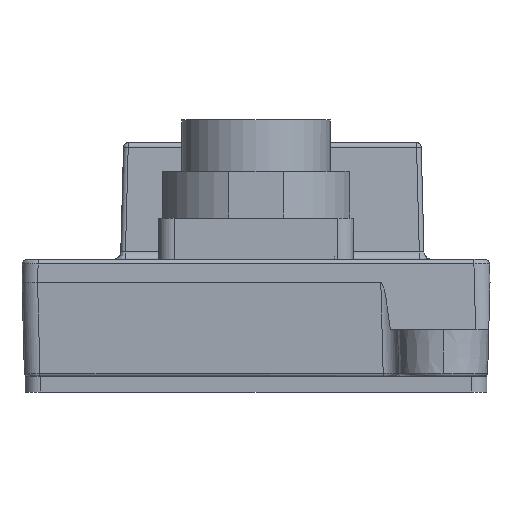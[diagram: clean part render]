
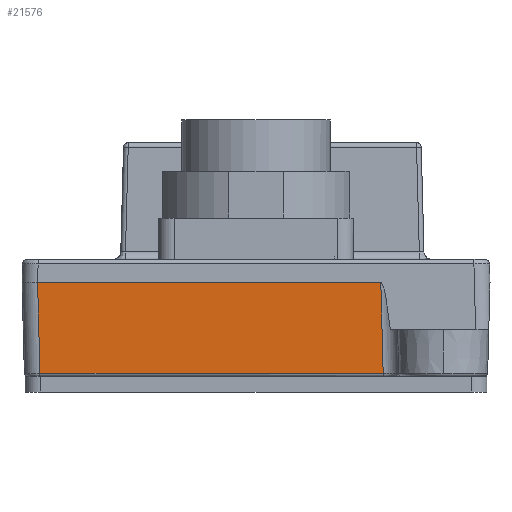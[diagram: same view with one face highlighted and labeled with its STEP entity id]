
A CAD part, left-side view. The second image highlights one B-rep face of the part: STEP entity #21576.
In plain terms, the highlighted planar face has unit normal (-1, 0, -0.026).
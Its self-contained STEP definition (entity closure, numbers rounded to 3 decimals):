
#18589=CARTESIAN_POINT('',(151.5,14.,5.71));
#18590=VERTEX_POINT('',#18589);
#18630=CARTESIAN_POINT('',(151.5,-8.,5.71));
#18631=VERTEX_POINT('',#18630);
#18632=CARTESIAN_POINT('',(151.5,14.,5.71));
#18633=DIRECTION('',(0.,-1.,0.));
#18634=VECTOR('',#18633,22.);
#18635=LINE('',#18632,#18634);
#18636=EDGE_CURVE('',#18590,#18631,#18635,.T.);
#21513=CARTESIAN_POINT('',(151.652,-8.152,-0.095));
#21514=VERTEX_POINT('',#21513);
#21543=CARTESIAN_POINT('',(151.5,-8.,5.71));
#21544=CARTESIAN_POINT('',(151.551,-8.051,3.775));
#21545=CARTESIAN_POINT('',(151.601,-8.101,1.84));
#21546=CARTESIAN_POINT('',(151.652,-8.152,-0.095));
#21547=B_SPLINE_CURVE_WITH_KNOTS('',3,(#21543,#21544,#21545,#21546),.UNSPECIFIED.,.F.,.F.,(4,4),(0.,1.),.UNSPECIFIED.);
#21548=EDGE_CURVE('',#18631,#21514,#21547,.T.);
#21553=CARTESIAN_POINT('',(151.5,15.,5.71));
#21554=DIRECTION('',(-1.,0.,-0.026));
#21555=DIRECTION('',(0.,1.,0.));
#21556=AXIS2_PLACEMENT_3D('',#21553,#21554,#21555);
#21557=PLANE('',#21556);
#21558=CARTESIAN_POINT('',(151.652,13.848,-0.095));
#21559=VERTEX_POINT('',#21558);
#21560=CARTESIAN_POINT('',(151.652,13.848,-0.095));
#21561=DIRECTION('',(-0.,-1.,-0.));
#21562=VECTOR('',#21561,22.001);
#21563=LINE('',#21560,#21562);
#21564=EDGE_CURVE('',#21559,#21514,#21563,.T.);
#21565=ORIENTED_EDGE('',*,*,#21564,.T.);
#21566=ORIENTED_EDGE('',*,*,#21548,.F.);
#21567=ORIENTED_EDGE('',*,*,#18636,.F.);
#21568=CARTESIAN_POINT('',(151.652,13.848,-0.095));
#21569=DIRECTION('',(-0.026,0.026,0.999));
#21570=VECTOR('',#21569,5.809);
#21571=LINE('',#21568,#21570);
#21572=EDGE_CURVE('',#21559,#18590,#21571,.T.);
#21573=ORIENTED_EDGE('',*,*,#21572,.F.);
#21574=EDGE_LOOP('',(#21565,#21566,#21567,#21573));
#21575=FACE_BOUND('',#21574,.T.);
#21576=ADVANCED_FACE('',(#21575),#21557,.T.);
